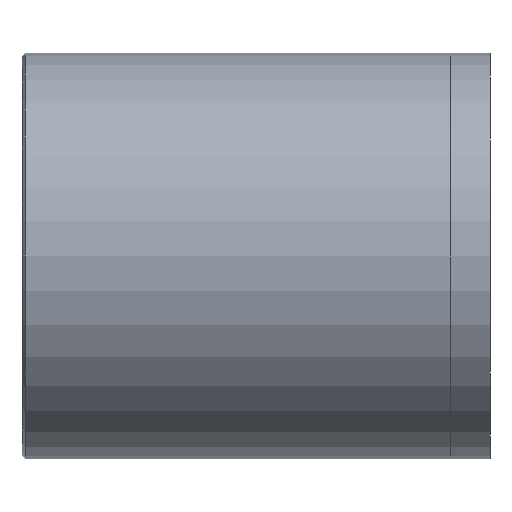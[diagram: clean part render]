
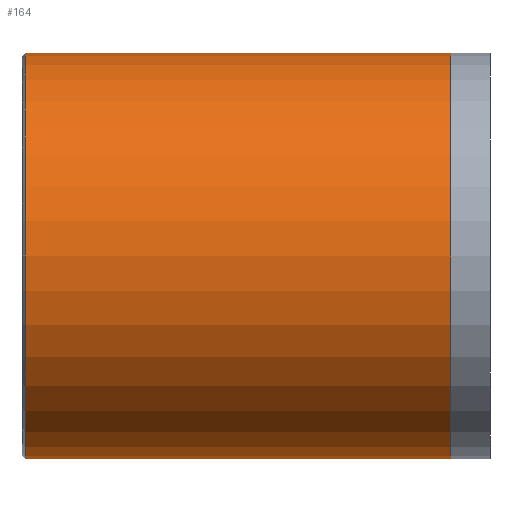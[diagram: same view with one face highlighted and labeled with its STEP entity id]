
A CAD part, left-side view. The second image highlights one B-rep face of the part: STEP entity #164.
In plain terms, the highlighted cylindrical face has radius 13 mm (diameter 26 mm), a partial arc.
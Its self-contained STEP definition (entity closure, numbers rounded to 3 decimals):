
#14 = AXIS2_PLACEMENT_3D ( 'NONE', #305, #96, #34 ) ;
#33 = CARTESIAN_POINT ( 'NONE',  ( 0., 29.8, -13. ) ) ;
#34 = DIRECTION ( 'NONE',  ( 0., 0., -1. ) ) ;
#78 = ORIENTED_EDGE ( 'NONE', *, *, #426, .F. ) ;
#93 = EDGE_CURVE ( 'NONE', #293, #475, #393, .T. ) ;
#96 = DIRECTION ( 'NONE',  ( 0., -1., 0. ) ) ;
#126 = DIRECTION ( 'NONE',  ( 0., 0., -1. ) ) ;
#133 = DIRECTION ( 'NONE',  ( 0., -1., 0. ) ) ;
#152 = CARTESIAN_POINT ( 'NONE',  ( 0., 29.8, 13. ) ) ;
#160 = LINE ( 'NONE', #345, #543 ) ;
#164 = ADVANCED_FACE ( 'NONE', ( #358 ), #244, .T. ) ;
#175 = DIRECTION ( 'NONE',  ( 0., -1., 0. ) ) ;
#206 = CARTESIAN_POINT ( 'NONE',  ( 0., 2.5, 13. ) ) ;
#218 = CIRCLE ( 'NONE', #574, 13. ) ;
#224 = EDGE_LOOP ( 'NONE', ( #564, #446, #287, #78 ) ) ;
#244 = CYLINDRICAL_SURFACE ( 'NONE', #14, 13. ) ;
#255 = CARTESIAN_POINT ( 'NONE',  ( 0., 0., -13. ) ) ;
#287 = ORIENTED_EDGE ( 'NONE', *, *, #454, .T. ) ;
#293 = VERTEX_POINT ( 'NONE', #152 ) ;
#305 = CARTESIAN_POINT ( 'NONE',  ( 0., 0., 0. ) ) ;
#332 = DIRECTION ( 'NONE',  ( 0., -1., 0. ) ) ;
#335 = VECTOR ( 'NONE', #133, 1000. ) ;
#339 = DIRECTION ( 'NONE',  ( 0., 0., 1. ) ) ;
#345 = CARTESIAN_POINT ( 'NONE',  ( 0., 0., 13. ) ) ;
#358 = FACE_OUTER_BOUND ( 'NONE', #224, .T. ) ;
#380 = CARTESIAN_POINT ( 'NONE',  ( 0., 2.5, 0. ) ) ;
#381 = CARTESIAN_POINT ( 'NONE',  ( 0., 29.8, 0. ) ) ;
#393 = CIRCLE ( 'NONE', #402, 13. ) ;
#402 = AXIS2_PLACEMENT_3D ( 'NONE', #381, #428, #339 ) ;
#416 = CARTESIAN_POINT ( 'NONE',  ( 0., 2.5, -13. ) ) ;
#424 = VERTEX_POINT ( 'NONE', #416 ) ;
#426 = EDGE_CURVE ( 'NONE', #429, #424, #218, .T. ) ;
#428 = DIRECTION ( 'NONE',  ( 0., -1., 0. ) ) ;
#429 = VERTEX_POINT ( 'NONE', #206 ) ;
#441 = EDGE_CURVE ( 'NONE', #293, #429, #160, .T. ) ;
#446 = ORIENTED_EDGE ( 'NONE', *, *, #93, .T. ) ;
#454 = EDGE_CURVE ( 'NONE', #475, #424, #498, .T. ) ;
#475 = VERTEX_POINT ( 'NONE', #33 ) ;
#498 = LINE ( 'NONE', #255, #335 ) ;
#543 = VECTOR ( 'NONE', #175, 1000. ) ;
#564 = ORIENTED_EDGE ( 'NONE', *, *, #441, .F. ) ;
#574 = AXIS2_PLACEMENT_3D ( 'NONE', #380, #332, #126 ) ;
